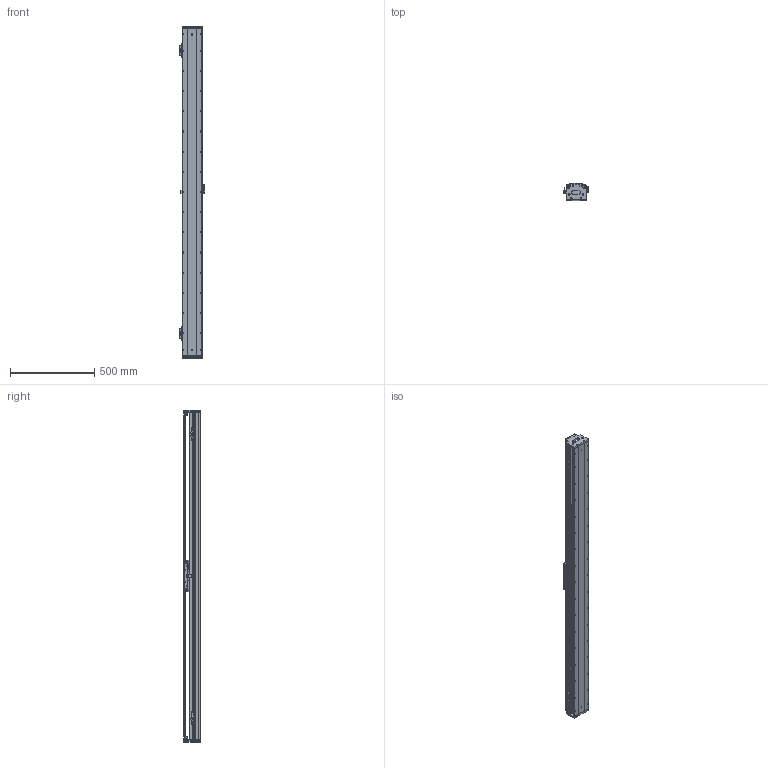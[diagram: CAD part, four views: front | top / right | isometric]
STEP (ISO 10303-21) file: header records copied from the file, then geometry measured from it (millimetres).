
FILE_DESCRIPTION (( 'STEP AP203' ), '1' );
FILE_NAME ('DKW119-C2-W060(T1680-L005-0.2).STEP', '2021-09-02T00:46:42', ( '微软用户' ), ( '微软中国' ), 'SwSTEP 2.0', 'SolidWorks 2018', '' );
FILE_SCHEMA (( 'CONFIG_CONTROL_DESIGN' ));
Length unit declared in the file: millimetre
Products named in the file (23): Ru2; 12160-0000-004-00  DKW120詩湍揤輸; 萇儂堤盄 ^DKW119-C2-W060(T1680-L005-0.2); RUS嫖掑郪璃; DKW119 单轴模组-拉钢带组件; CKMA01-W060-TRLxxx; CKM02-W060_00; pm-y65; DKW-HXJ-JY-00 遣喳砎蝶; DKW119-C2-W060(T1680-L005-0.2); 10980-0001-003-00 嫖萇羲壽嘐隅釱; 11062-0001-004-00 DKW119傷啣; 嫖萇羲壽蚾饜极; 06652-0001-004-00 DKW120嶺輸菜輸; 嫖萇羲壽蚾饜极A; 12018-0001-002-00 詩湍; 12018-0001-001-00 菁釱; DKW-SG-GYP-H-00 嫖萇覜茼え; 砎蝶猾沭; MSB15-DG-U; RUS嫖掑喜; 12160-0000-003-00 DKW120詩湍嶺輸; DKW119-RU-DTJ-00 RU2黍杅芛盓殤
Assembly tree (36 placements, depth 3):
  DKW119-C2-W060(T1680-L005-0.2)
    12018-0001-001-00 菁釱
    MSB15-DG-U  x2
    DKW119-RU-DTJ-00 RU2黍杅芛盓殤
    萇儂堤盄 ^DKW119-C2-W060(T1680-L005-0.2)
    CKMA01-W060-TRLxxx
    DKW119 单轴模组-拉钢带组件
      DKW-HXJ-JY-00 遣喳砎蝶  x4
      11062-0001-004-00 DKW119傷啣  x2
      06652-0001-004-00 DKW120嶺輸菜輸  x4
      12018-0001-002-00 詩湍
      砎蝶猾沭  x2
      12160-0000-003-00 DKW120詩湍嶺輸  x2
      12160-0000-004-00  DKW120詩湍揤輸  x2
    嫖萇羲壽蚾饜极
      pm-y65
      10980-0001-003-00 嫖萇羲壽嘐隅釱
    嫖萇羲壽蚾饜极A
      pm-y65  x2
      10980-0001-003-00 嫖萇羲壽嘐隅釱
    DKW-SG-GYP-H-00 嫖萇覜茼え
    RUS嫖掑郪璃
      RUS嫖掑喜
      Ru2
    CKM02-W060_00
Bounding box: 154.3 x 99 x 1976 mm (x, y, z)
Volume: 8486115.9 mm3; surface area: 2782879.9 mm2
Topology: 42 solids, 91 shells, 4310 faces, 11513 edges, 7346 vertices
Faces by surface type: plane 2142, cylinder 1507, cone 414, bspline 247
Entity records: 130000 total; most frequent: CARTESIAN_POINT 43513, ORIENTED_EDGE 17411, DIRECTION 16818, EDGE_CURVE 8746, VERTEX_POINT 5741, AXIS2_PLACEMENT_3D 5728, VECTOR 5362, LINE 5362
